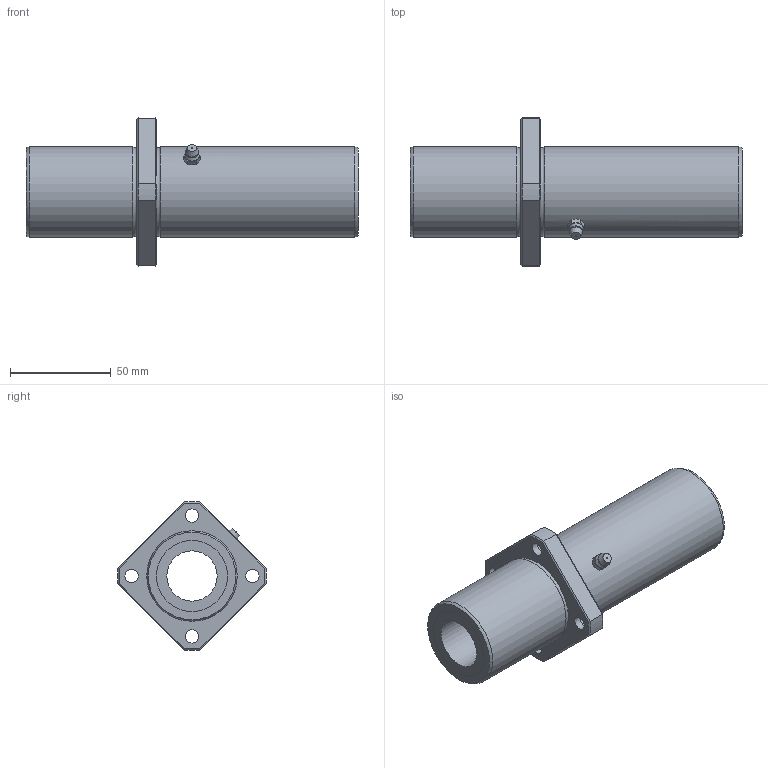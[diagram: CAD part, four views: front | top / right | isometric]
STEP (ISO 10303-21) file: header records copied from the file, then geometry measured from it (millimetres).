
FILE_DESCRIPTION((''),'2;1');
FILE_NAME('D:\製品 (図面)\カタログ用3D\リニアベアリング関連\STEP形式\LFLKC\LFLKC25.stp','2010-06-04T09:14:34',('Tsuchiya'),(''),'Autodesk Inventor 10','Autodesk Inventor 10','');
FILE_SCHEMA(('AUTOMOTIVE_DESIGN { 1 0 10303 214 1 1 1 1 }'));
Length unit declared in the file: millimetre
Products named in the file (1): LFLKC25
Bounding box: 165 x 73.95 x 73.95 mm (x, y, z)
Volume: 195267.8 mm3; surface area: 43564.4 mm2
Topology: 1 solids, 1 shells, 80 faces, 166 edges, 98 vertices
Faces by surface type: plane 28, cone 21, bspline 16, cylinder 11, sphere 2, torus 2
Full cylindrical faces by diameter (mm): 25 x1, 35.3 x2, 45 x2
Entity records: 2413 total; most frequent: CARTESIAN_POINT 879, DIRECTION 300, ORIENTED_EDGE 288, EDGE_CURVE 144, AXIS2_PLACEMENT_3D 133, EDGE_LOOP 122, VERTEX_POINT 96, FACE_OUTER_BOUND 80
